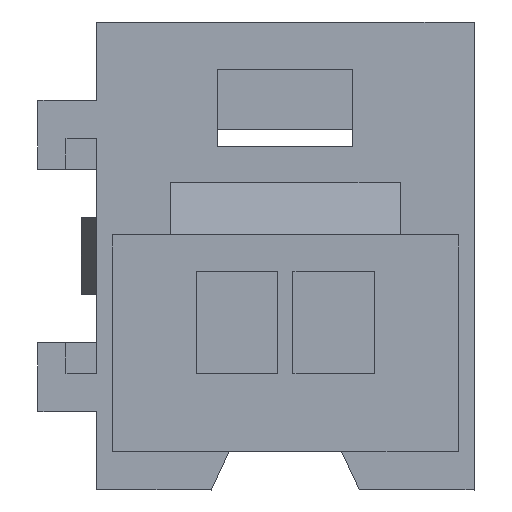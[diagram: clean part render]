
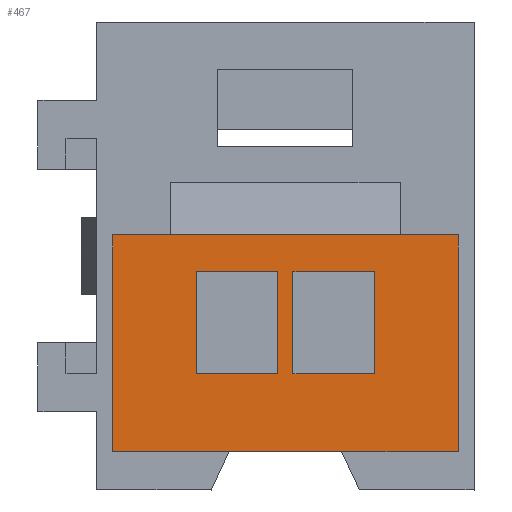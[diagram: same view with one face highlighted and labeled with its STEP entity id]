
A CAD part, front view. The second image highlights one B-rep face of the part: STEP entity #467.
In plain terms, the highlighted planar face has unit normal (0, -1, 0).
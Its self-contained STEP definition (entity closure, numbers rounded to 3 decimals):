
#379=AXIS2_PLACEMENT_3D('Plane Axis2P3D',#376,#377,#378) ;
#50=CARTESIAN_POINT('Vertex',(-6.775,-18.3,2.65)) ;
#53=CARTESIAN_POINT('Line Origine',(0.,-18.3,2.65)) ;
#57=CARTESIAN_POINT('Vertex',(6.775,-18.3,2.65)) ;
#357=CARTESIAN_POINT('Line Origine',(-6.775,-18.3,-1.6)) ;
#361=CARTESIAN_POINT('Vertex',(-6.775,-18.3,-5.85)) ;
#376=CARTESIAN_POINT('Axis2P3D Location',(0.,-18.3,0.)) ;
#381=CARTESIAN_POINT('Line Origine',(0.,-18.3,-5.85)) ;
#385=CARTESIAN_POINT('Vertex',(6.775,-18.3,-5.85)) ;
#388=CARTESIAN_POINT('Line Origine',(6.775,-18.3,-1.6)) ;
#399=CARTESIAN_POINT('Line Origine',(-1.9,-18.3,1.21)) ;
#403=CARTESIAN_POINT('Vertex',(-0.3,-18.3,1.21)) ;
#405=CARTESIAN_POINT('Vertex',(-3.5,-18.3,1.21)) ;
#408=CARTESIAN_POINT('Line Origine',(-0.3,-18.3,-0.79)) ;
#412=CARTESIAN_POINT('Vertex',(-0.3,-18.3,-2.79)) ;
#415=CARTESIAN_POINT('Line Origine',(-1.9,-18.3,-2.79)) ;
#419=CARTESIAN_POINT('Vertex',(-3.5,-18.3,-2.79)) ;
#422=CARTESIAN_POINT('Line Origine',(-3.5,-18.3,-0.79)) ;
#433=CARTESIAN_POINT('Line Origine',(0.3,-18.3,-0.79)) ;
#437=CARTESIAN_POINT('Vertex',(0.3,-18.3,-2.79)) ;
#439=CARTESIAN_POINT('Vertex',(0.3,-18.3,1.21)) ;
#442=CARTESIAN_POINT('Line Origine',(1.9,-18.3,1.21)) ;
#446=CARTESIAN_POINT('Vertex',(3.5,-18.3,1.21)) ;
#449=CARTESIAN_POINT('Line Origine',(3.5,-18.3,-0.79)) ;
#453=CARTESIAN_POINT('Vertex',(3.5,-18.3,-2.79)) ;
#456=CARTESIAN_POINT('Line Origine',(1.9,-18.3,-2.79)) ;
#54=DIRECTION('Vector Direction',(-1.,0.,0.)) ;
#358=DIRECTION('Vector Direction',(0.,0.,-1.)) ;
#377=DIRECTION('Axis2P3D Direction',(0.,1.,-0.)) ;
#378=DIRECTION('Axis2P3D XDirection',(-1.,0.,0.)) ;
#382=DIRECTION('Vector Direction',(1.,0.,0.)) ;
#389=DIRECTION('Vector Direction',(0.,0.,1.)) ;
#400=DIRECTION('Vector Direction',(1.,0.,0.)) ;
#409=DIRECTION('Vector Direction',(0.,0.,1.)) ;
#416=DIRECTION('Vector Direction',(-1.,0.,0.)) ;
#423=DIRECTION('Vector Direction',(0.,0.,-1.)) ;
#434=DIRECTION('Vector Direction',(0.,0.,1.)) ;
#443=DIRECTION('Vector Direction',(1.,0.,0.)) ;
#450=DIRECTION('Vector Direction',(0.,0.,-1.)) ;
#457=DIRECTION('Vector Direction',(-1.,0.,0.)) ;
#55=VECTOR('Line Direction',#54,1.) ;
#359=VECTOR('Line Direction',#358,1.) ;
#383=VECTOR('Line Direction',#382,1.) ;
#390=VECTOR('Line Direction',#389,1.) ;
#401=VECTOR('Line Direction',#400,1.) ;
#410=VECTOR('Line Direction',#409,1.) ;
#417=VECTOR('Line Direction',#416,1.) ;
#424=VECTOR('Line Direction',#423,1.) ;
#435=VECTOR('Line Direction',#434,1.) ;
#444=VECTOR('Line Direction',#443,1.) ;
#451=VECTOR('Line Direction',#450,1.) ;
#458=VECTOR('Line Direction',#457,1.) ;
#394=ORIENTED_EDGE('',*,*,#363,.F.) ;
#395=ORIENTED_EDGE('',*,*,#387,.F.) ;
#396=ORIENTED_EDGE('',*,*,#392,.F.) ;
#397=ORIENTED_EDGE('',*,*,#59,.F.) ;
#428=ORIENTED_EDGE('',*,*,#407,.F.) ;
#429=ORIENTED_EDGE('',*,*,#414,.F.) ;
#430=ORIENTED_EDGE('',*,*,#421,.F.) ;
#431=ORIENTED_EDGE('',*,*,#426,.F.) ;
#462=ORIENTED_EDGE('',*,*,#441,.T.) ;
#463=ORIENTED_EDGE('',*,*,#448,.T.) ;
#464=ORIENTED_EDGE('',*,*,#455,.T.) ;
#465=ORIENTED_EDGE('',*,*,#460,.T.) ;
#432=FACE_BOUND('',#427,.T.) ;
#466=FACE_BOUND('',#461,.T.) ;
#467=ADVANCED_FACE('MANIFOLD_SOLID_BREP #33',(#398,#432,#466),#380,.F.) ;
#59=EDGE_CURVE('',#51,#58,#56,.F.) ;
#363=EDGE_CURVE('',#362,#51,#360,.F.) ;
#387=EDGE_CURVE('',#386,#362,#384,.F.) ;
#392=EDGE_CURVE('',#58,#386,#391,.F.) ;
#407=EDGE_CURVE('',#404,#406,#402,.F.) ;
#414=EDGE_CURVE('',#413,#404,#411,.T.) ;
#421=EDGE_CURVE('',#420,#413,#418,.F.) ;
#426=EDGE_CURVE('',#406,#420,#425,.T.) ;
#441=EDGE_CURVE('',#438,#440,#436,.T.) ;
#448=EDGE_CURVE('',#440,#447,#445,.T.) ;
#455=EDGE_CURVE('',#447,#454,#452,.T.) ;
#460=EDGE_CURVE('',#454,#438,#459,.T.) ;
#393=EDGE_LOOP('',(#394,#395,#396,#397)) ;
#427=EDGE_LOOP('',(#428,#429,#430,#431)) ;
#461=EDGE_LOOP('',(#462,#463,#464,#465)) ;
#398=FACE_OUTER_BOUND('',#393,.T.) ;
#56=LINE('Line',#53,#55) ;
#360=LINE('Line',#357,#359) ;
#384=LINE('Line',#381,#383) ;
#391=LINE('Line',#388,#390) ;
#402=LINE('Line',#399,#401) ;
#411=LINE('Line',#408,#410) ;
#418=LINE('Line',#415,#417) ;
#425=LINE('Line',#422,#424) ;
#436=LINE('Line',#433,#435) ;
#445=LINE('Line',#442,#444) ;
#452=LINE('Line',#449,#451) ;
#459=LINE('Line',#456,#458) ;
#380=PLANE('',#379) ;
#51=VERTEX_POINT('',#50) ;
#58=VERTEX_POINT('',#57) ;
#362=VERTEX_POINT('',#361) ;
#386=VERTEX_POINT('',#385) ;
#404=VERTEX_POINT('',#403) ;
#406=VERTEX_POINT('',#405) ;
#413=VERTEX_POINT('',#412) ;
#420=VERTEX_POINT('',#419) ;
#438=VERTEX_POINT('',#437) ;
#440=VERTEX_POINT('',#439) ;
#447=VERTEX_POINT('',#446) ;
#454=VERTEX_POINT('',#453) ;
